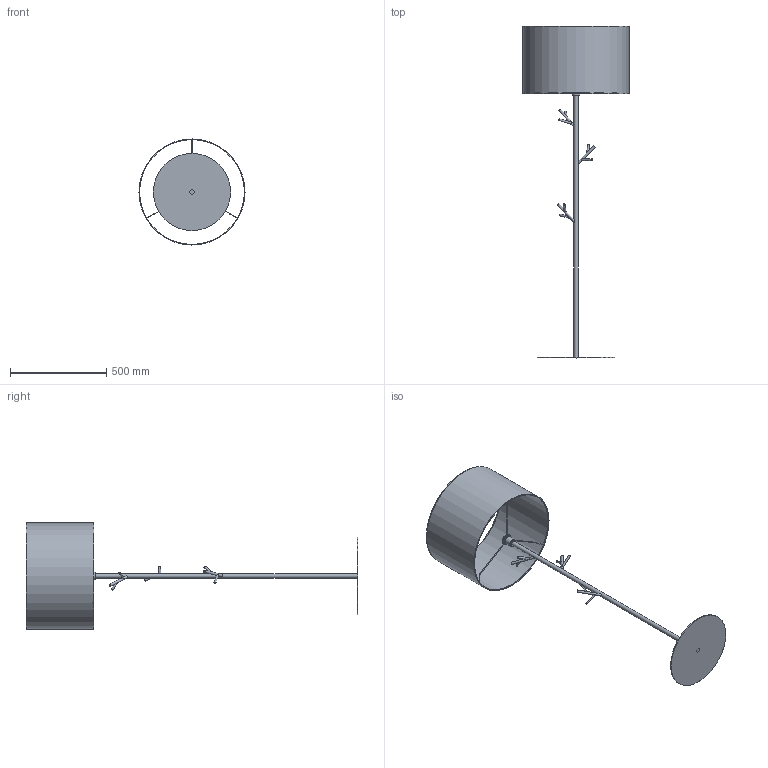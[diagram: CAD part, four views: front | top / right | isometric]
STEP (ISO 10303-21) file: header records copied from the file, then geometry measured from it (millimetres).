
FILE_DESCRIPTION(/* description */ (''),/* implementation_level */ '2;1');
FILE_NAME(/* name */ 'C:/Users/kubaw/OneDrive/Pulpit/Nowy folder (3)/5572_ALBERO WHITE v5.step',/* time_stamp */ '2021-12-11T09:28:59+01:00',/* author */ (''),/* organization */ (''),/* preprocessor_version */ 'ST-DEVELOPER v18.1',/* originating_system */ 'Autodesk Translation Framework v10.10.0.1391',/* authorisation */ '');
FILE_SCHEMA (('AUTOMOTIVE_DESIGN { 1 0 10303 214 3 1 1 }'));
Length unit declared in the file: millimetre
Products named in the file (2): 5572_ALBERO WHITE; Mocowanie_ALBERO
Assembly tree (1 placements, depth 2):
  5572_ALBERO WHITE
    Mocowanie_ALBERO
Bounding box: 550 x 1720 x 550 mm (x, y, z)
Volume: 2436973.2 mm3; surface area: 1640246 mm2
Topology: 25 solids, 25 shells, 149 faces, 276 edges, 186 vertices
Faces by surface type: plane 84, cylinder 59, torus 6
Full cylindrical faces by diameter (mm): 2.5 x9, 3 x6, 10 x6, 12 x3, 23 x1, 24 x3, 27 x1, 38.85 x1, 39.953 x1, 40.8 x1, 42 x3, 42.953 x1, 45 x1, 48.435 x1, 49.5 x1, 51.5 x1, 58.8 x1, 400 x1, 546 x1, 550 x1
Entity records: 4300 total; most frequent: CARTESIAN_POINT 1112, DIRECTION 692, ORIENTED_EDGE 552, AXIS2_PLACEMENT_3D 278, EDGE_CURVE 276, VERTEX_POINT 186, EDGE_LOOP 176, FACE_OUTER_BOUND 149
